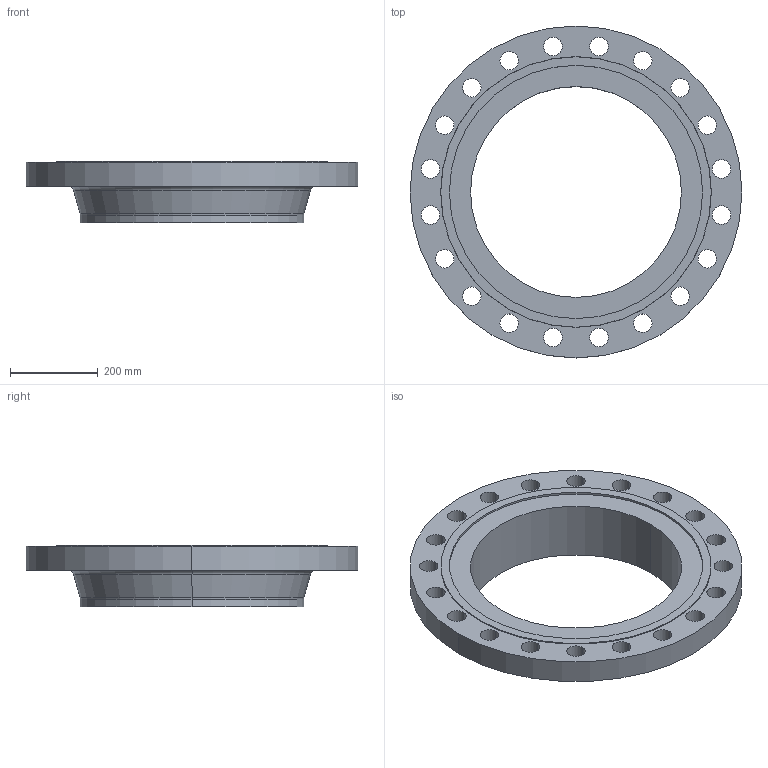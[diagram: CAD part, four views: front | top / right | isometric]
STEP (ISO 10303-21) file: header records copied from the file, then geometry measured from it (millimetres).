
FILE_DESCRIPTION (( 'STEP AP214' ), '1' );
FILE_NAME ('PN40 DN500 Type 11 - Type F Face.STEP', '2018-12-29T04:28:57', ( '' ), ( '' ), 'SwSTEP 2.0', 'SolidWorks 2019', '' );
FILE_SCHEMA (( 'AUTOMOTIVE_DESIGN' ));
Length unit declared in the file: millimetre
Products named in the file (1): PN40 DN500 Type 11 - Type F Face
Bounding box: 755 x 755 x 140 mm (x, y, z)
Volume: 15795446.9 mm3; surface area: 1076016.8 mm2
Topology: 1 solids, 1 shells, 61 faces, 162 edges, 106 vertices
Faces by surface type: cylinder 48, plane 5, torus 4, cone 4
Entity records: 2076 total; most frequent: DIRECTION 396, CARTESIAN_POINT 330, ORIENTED_EDGE 324, AXIS2_PLACEMENT_3D 172, EDGE_CURVE 162, CIRCLE 110, EDGE_LOOP 106, VERTEX_POINT 106
